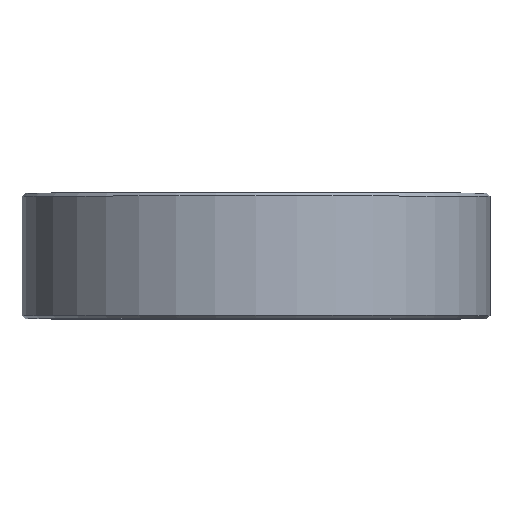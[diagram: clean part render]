
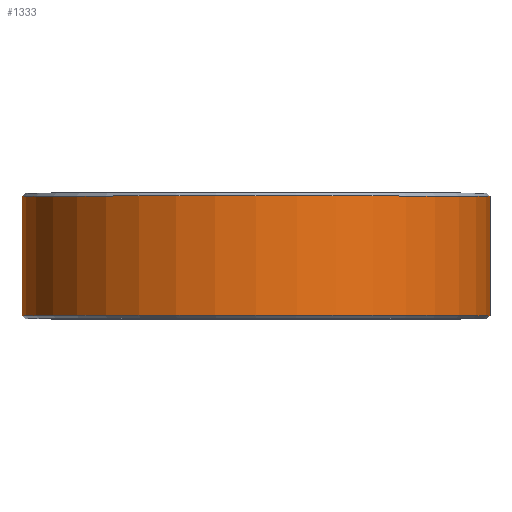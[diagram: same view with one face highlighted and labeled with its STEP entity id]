
A CAD part, top view. The second image highlights one B-rep face of the part: STEP entity #1333.
In plain terms, the highlighted cylindrical face has radius 14.9 mm (diameter 29.8 mm), a partial arc.
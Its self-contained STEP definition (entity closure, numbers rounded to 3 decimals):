
#59=DIRECTION('',(0.,-1.,0.));
#60=VECTOR('',#59,7.6);
#61=CARTESIAN_POINT('',(-14.9,7.8,0.));
#62=LINE('',#61,#60);
#290=CARTESIAN_POINT('',(0.,0.2,0.));
#291=DIRECTION('',(0.,-1.,0.));
#292=DIRECTION('',(1.,0.,0.));
#293=AXIS2_PLACEMENT_3D('',#290,#291,#292);
#295=CARTESIAN_POINT('',(0.,7.8,0.));
#296=DIRECTION('',(0.,1.,0.));
#297=DIRECTION('',(-1.,0.,0.));
#298=AXIS2_PLACEMENT_3D('',#295,#296,#297);
#300=DIRECTION('',(0.,-1.,0.));
#301=VECTOR('',#300,7.6);
#302=CARTESIAN_POINT('',(14.9,7.8,0.));
#303=LINE('',#302,#301);
#1010=CARTESIAN_POINT('',(14.9,7.8,0.));
#1011=VERTEX_POINT('',#1010);
#1012=CARTESIAN_POINT('',(-14.9,7.8,0.));
#1013=VERTEX_POINT('',#1012);
#1014=CARTESIAN_POINT('',(14.9,0.2,0.));
#1015=VERTEX_POINT('',#1014);
#1016=CARTESIAN_POINT('',(-14.9,0.2,0.));
#1017=VERTEX_POINT('',#1016);
#1321=CARTESIAN_POINT('',(0.,0.,0.));
#1322=DIRECTION('',(0.,1.,0.));
#1323=DIRECTION('',(1.,0.,0.));
#1324=AXIS2_PLACEMENT_3D('',#1321,#1322,#1323);
#1325=CYLINDRICAL_SURFACE('',#1324,14.9);
#1326=ORIENTED_EDGE('',*,*,#1187,.T.);
#1327=ORIENTED_EDGE('',*,*,#1218,.F.);
#1329=ORIENTED_EDGE('',*,*,#1328,.T.);
#1330=ORIENTED_EDGE('',*,*,#1214,.T.);
#1331=EDGE_LOOP('',(#1326,#1327,#1329,#1330));
#1332=FACE_OUTER_BOUND('',#1331,.F.);
#1333=ADVANCED_FACE('',(#1332),#1325,.T.);
#294=CIRCLE('',#293,14.9);
#299=CIRCLE('',#298,14.9);
#1187=EDGE_CURVE('',#1015,#1017,#294,.T.);
#1214=EDGE_CURVE('',#1011,#1015,#303,.T.);
#1218=EDGE_CURVE('',#1013,#1017,#62,.T.);
#1328=EDGE_CURVE('',#1013,#1011,#299,.T.);
